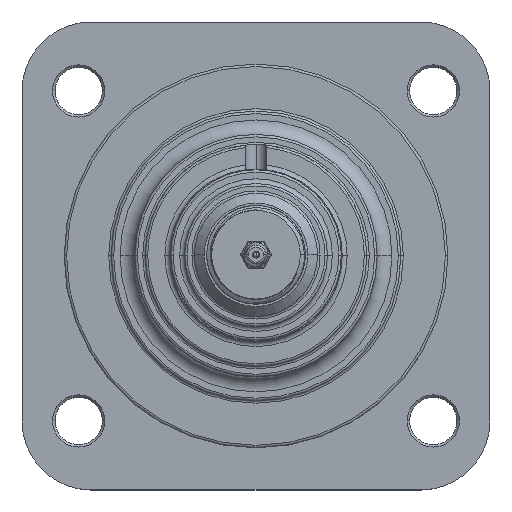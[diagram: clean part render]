
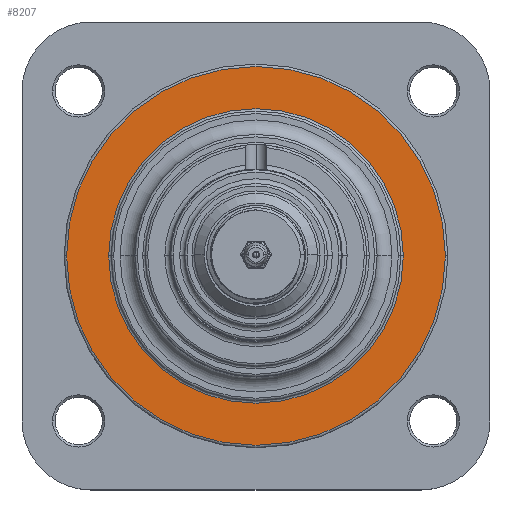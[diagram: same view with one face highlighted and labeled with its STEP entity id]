
A CAD part, top view. The second image highlights one B-rep face of the part: STEP entity #8207.
In plain terms, the highlighted planar face has unit normal (0, 0, 1).
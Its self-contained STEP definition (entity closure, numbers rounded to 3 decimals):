
#369 = FACE_BOUND ( 'NONE', #2137, .T. ) ;
#492 = CARTESIAN_POINT ( 'NONE',  ( 0., 0., -185.928 ) ) ;
#701 = EDGE_CURVE ( 'NONE', #5690, #1908, #5679, .T. ) ;
#725 = DIRECTION ( 'NONE',  ( 0., 0., -1. ) ) ;
#1172 = CIRCLE ( 'NONE', #7133, 48.831 ) ;
#1180 = ORIENTED_EDGE ( 'NONE', *, *, #9418, .T. ) ;
#1557 = DIRECTION ( 'NONE',  ( 0., 0., 1. ) ) ;
#1908 = VERTEX_POINT ( 'NONE', #5191 ) ;
#2137 = EDGE_LOOP ( 'NONE', ( #3797, #4583 ) ) ;
#2498 = FACE_OUTER_BOUND ( 'NONE', #12777, .T. ) ;
#3110 = CARTESIAN_POINT ( 'NONE',  ( -48.831, 0., -185.928 ) ) ;
#3720 = DIRECTION ( 'NONE',  ( -1., 0., 0. ) ) ;
#3797 = ORIENTED_EDGE ( 'NONE', *, *, #6736, .T. ) ;
#4359 = PLANE ( 'NONE',  #8985 ) ;
#4557 = DIRECTION ( 'NONE',  ( -1., 0., 0. ) ) ;
#4583 = ORIENTED_EDGE ( 'NONE', *, *, #701, .T. ) ;
#5191 = CARTESIAN_POINT ( 'NONE',  ( -37.973, 0., -185.928 ) ) ;
#5679 = CIRCLE ( 'NONE', #7386, 37.973 ) ;
#5690 = VERTEX_POINT ( 'NONE', #9056 ) ;
#5842 = CIRCLE ( 'NONE', #9668, 48.831 ) ;
#6567 = CIRCLE ( 'NONE', #9537, 37.973 ) ;
#6736 = EDGE_CURVE ( 'NONE', #1908, #5690, #6567, .T. ) ;
#6905 = DIRECTION ( 'NONE',  ( 0., 0., -1. ) ) ;
#6952 = DIRECTION ( 'NONE',  ( -1., 0., 0. ) ) ;
#7133 = AXIS2_PLACEMENT_3D ( 'NONE', #11998, #7809, #6952 ) ;
#7386 = AXIS2_PLACEMENT_3D ( 'NONE', #12952, #6905, #10943 ) ;
#7809 = DIRECTION ( 'NONE',  ( 0., 0., 1. ) ) ;
#8207 = ADVANCED_FACE ( 'NONE', ( #2498, #369 ), #4359, .F. ) ;
#8350 = DIRECTION ( 'NONE',  ( 0., 0., -1. ) ) ;
#8678 = CARTESIAN_POINT ( 'NONE',  ( 48.831, 0., -185.928 ) ) ;
#8985 = AXIS2_PLACEMENT_3D ( 'NONE', #9605, #8350, #12407 ) ;
#9056 = CARTESIAN_POINT ( 'NONE',  ( 37.973, 0., -185.928 ) ) ;
#9418 = EDGE_CURVE ( 'NONE', #12243, #10313, #5842, .T. ) ;
#9537 = AXIS2_PLACEMENT_3D ( 'NONE', #12838, #725, #3720 ) ;
#9568 = EDGE_CURVE ( 'NONE', #10313, #12243, #1172, .T. ) ;
#9589 = ORIENTED_EDGE ( 'NONE', *, *, #9568, .T. ) ;
#9605 = CARTESIAN_POINT ( 'NONE',  ( 0., 37.338, -185.928 ) ) ;
#9668 = AXIS2_PLACEMENT_3D ( 'NONE', #492, #1557, #4557 ) ;
#10313 = VERTEX_POINT ( 'NONE', #3110 ) ;
#10943 = DIRECTION ( 'NONE',  ( -1., 0., 0. ) ) ;
#11998 = CARTESIAN_POINT ( 'NONE',  ( 0., 0., -185.928 ) ) ;
#12243 = VERTEX_POINT ( 'NONE', #8678 ) ;
#12407 = DIRECTION ( 'NONE',  ( -1., 0., 0. ) ) ;
#12777 = EDGE_LOOP ( 'NONE', ( #9589, #1180 ) ) ;
#12838 = CARTESIAN_POINT ( 'NONE',  ( 0., 0., -185.928 ) ) ;
#12952 = CARTESIAN_POINT ( 'NONE',  ( 0., 0., -185.928 ) ) ;
